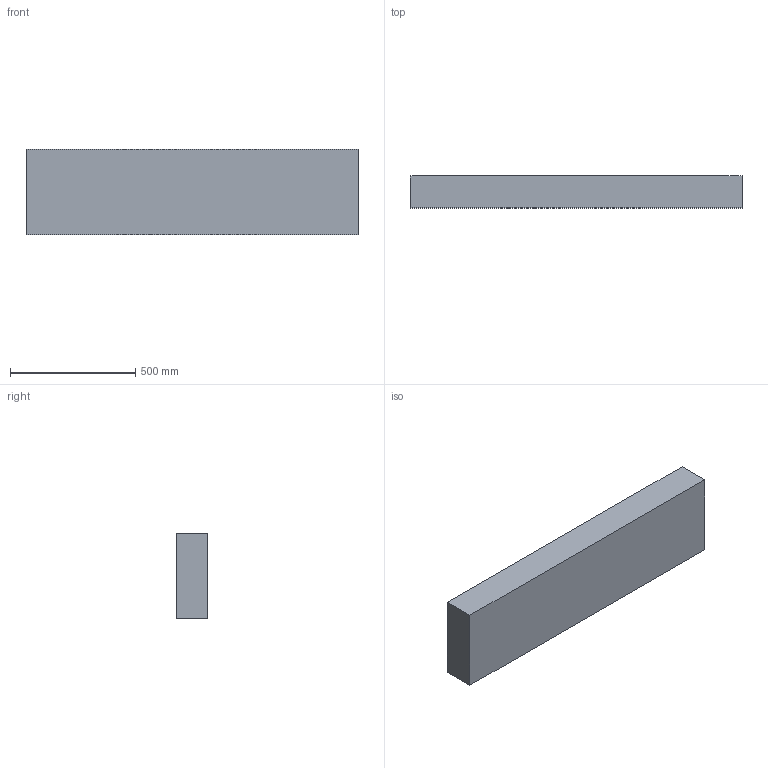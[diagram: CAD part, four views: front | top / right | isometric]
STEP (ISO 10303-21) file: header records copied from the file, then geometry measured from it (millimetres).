
FILE_DESCRIPTION (( 'STEP AP214' ), '1' );
FILE_NAME ('V770 PP BOTTOM TUB 2-5-2024.STEP', '2024-02-14T18:34:11', ( '' ), ( '' ), 'SwSTEP 2.0', 'SolidWorks 2021', '' );
FILE_SCHEMA (( 'AUTOMOTIVE_DESIGN' ));
Length unit declared in the file: millimetre
Products named in the file (1): V770 PP BOTTOM TUB 2-5-2024
Bounding box: 1322.89 x 127.38 x 341.55 mm (x, y, z)
Volume: 19936719.3 mm3; surface area: 1710125.4 mm2
Topology: 1 solids, 1 shells, 592 faces, 1421 edges, 770 vertices
Faces by surface type: bspline 497, plane 95
Entity records: 25123 total; most frequent: CARTESIAN_POINT 16202, ORIENTED_EDGE 2716, EDGE_CURVE 1358, VERTEX_POINT 770, DIRECTION 707, EDGE_LOOP 594, ADVANCED_FACE 592, FACE_OUTER_BOUND 592
